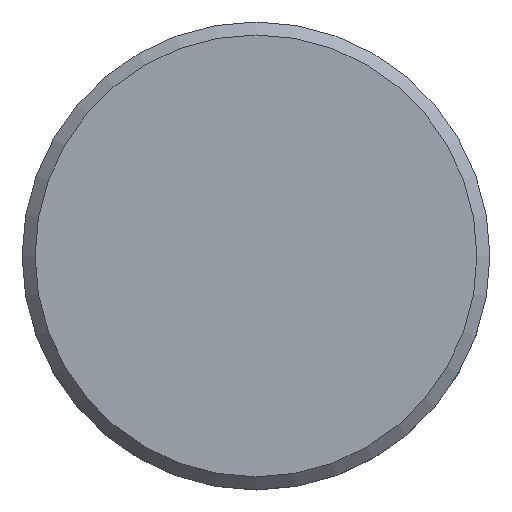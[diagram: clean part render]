
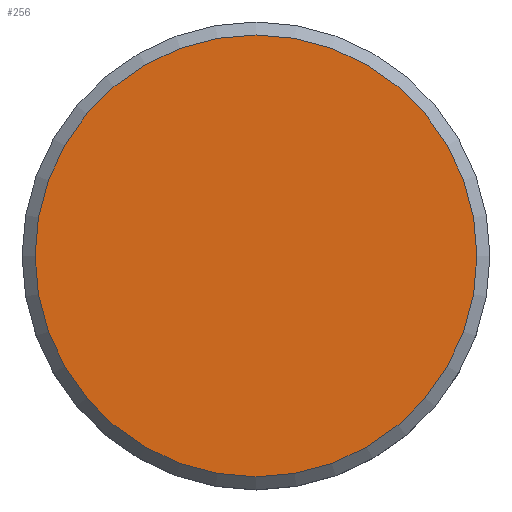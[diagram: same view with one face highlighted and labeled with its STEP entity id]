
A CAD part, top view. The second image highlights one B-rep face of the part: STEP entity #256.
In plain terms, the highlighted planar face has unit normal (0, 0, 1).
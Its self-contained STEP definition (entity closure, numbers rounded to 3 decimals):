
#9 = AXIS2_PLACEMENT_3D ( 'NONE', #62, #183, #93 ) ;
#23 = EDGE_CURVE ( 'NONE', #265, #265, #275, .T. ) ;
#44 = AXIS2_PLACEMENT_3D ( 'NONE', #170, #144, #124 ) ;
#56 = PLANE ( 'NONE',  #44 ) ;
#62 = CARTESIAN_POINT ( 'NONE',  ( 0., 0., 0.4 ) ) ;
#93 = DIRECTION ( 'NONE',  ( -1., 0., 0. ) ) ;
#96 = CARTESIAN_POINT ( 'NONE',  ( -0.85, 0., 0.4 ) ) ;
#124 = DIRECTION ( 'NONE',  ( -1., 0., 0. ) ) ;
#144 = DIRECTION ( 'NONE',  ( 0., 0., -1. ) ) ;
#170 = CARTESIAN_POINT ( 'NONE',  ( 0., 0., 0.4 ) ) ;
#183 = DIRECTION ( 'NONE',  ( 0., 0., -1. ) ) ;
#215 = ORIENTED_EDGE ( 'NONE', *, *, #23, .F. ) ;
#232 = EDGE_LOOP ( 'NONE', ( #215 ) ) ;
#256 = ADVANCED_FACE ( 'NONE', ( #296 ), #56, .F. ) ;
#265 = VERTEX_POINT ( 'NONE', #96 ) ;
#275 = CIRCLE ( 'NONE', #9, 0.85 ) ;
#296 = FACE_OUTER_BOUND ( 'NONE', #232, .T. ) ;
